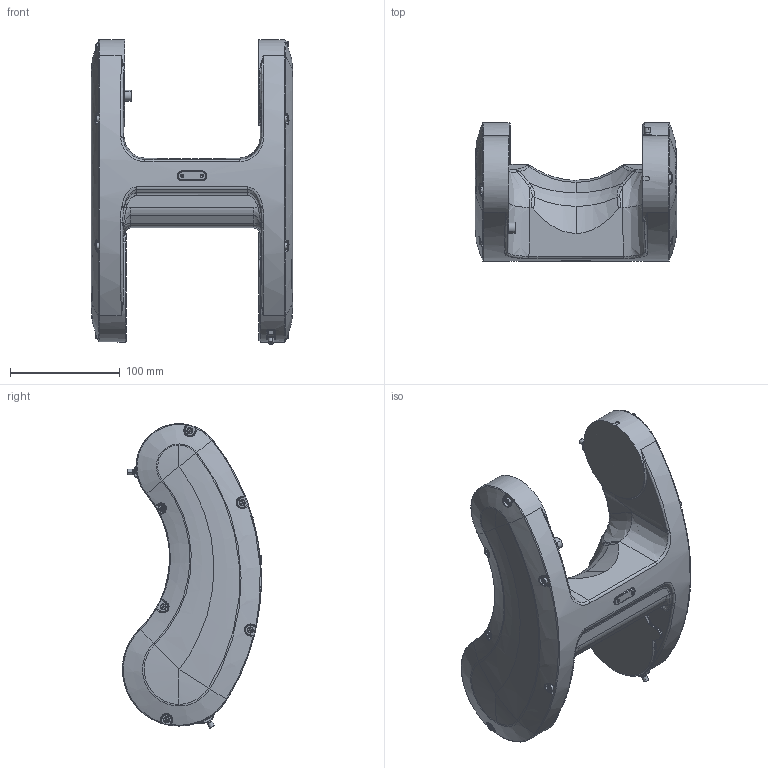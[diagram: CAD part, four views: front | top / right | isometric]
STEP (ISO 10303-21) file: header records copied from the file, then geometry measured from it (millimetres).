
FILE_DESCRIPTION (( 'STEP AP214' ), '1' );
FILE_NAME ('Link2.STEP', '2022-06-21T02:13:50', ( '' ), ( '' ), 'SwSTEP 2.0', 'SolidWorks 2020', '' );
FILE_SCHEMA (( 'AUTOMOTIVE_DESIGN' ));
Length unit declared in the file: millimetre
Products named in the file (1): Link2
Bounding box: 184 x 126.7 x 277.56 mm (x, y, z)
Volume: 1893350.1 mm3; surface area: 150010.6 mm2
Topology: 1 solids, 1 shells, 902 faces, 2153 edges, 1243 vertices
Faces by surface type: bspline 318, plane 269, cylinder 176, torus 76, cone 55, sphere 8
Entity records: 48739 total; most frequent: CARTESIAN_POINT 30761, ORIENTED_EDGE 4214, DIRECTION 3100, EDGE_CURVE 2107, VERTEX_POINT 1243, AXIS2_PLACEMENT_3D 1210, EDGE_LOOP 938, ADVANCED_FACE 902
